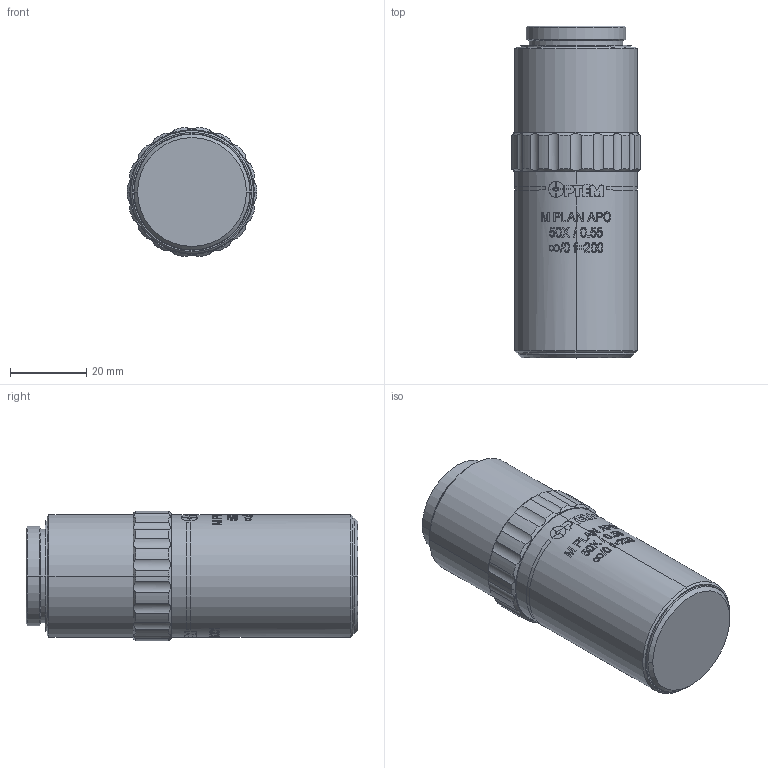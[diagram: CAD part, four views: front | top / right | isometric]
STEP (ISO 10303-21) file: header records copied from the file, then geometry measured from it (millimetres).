
FILE_DESCRIPTION (( 'STEP AP203' ), '1' );
FILE_NAME ('28-21-50-001 OUTLINE.STEP', '2018-07-05T23:32:47', ( '' ), ( '' ), 'SwSTEP 2.0', 'SolidWorks 2017', '' );
FILE_SCHEMA (( 'CONFIG_CONTROL_DESIGN' ));
Length unit declared in the file: millimetre
Products named in the file (1): 28-21-50-001 OUTLINE
Bounding box: 34 x 86.9 x 33.88 mm (x, y, z)
Volume: 69547.4 mm3; surface area: 19744.5 mm2
Topology: 2 solids, 2 shells, 175 faces, 804 edges, 708 vertices
Faces by surface type: cylinder 143, cone 22, plane 10
Entity records: 14987 total; most frequent: CARTESIAN_POINT 8470, ORIENTED_EDGE 1608, DIRECTION 1036, EDGE_CURVE 804, VERTEX_POINT 708, AXIS2_PLACEMENT_3D 416, B_SPLINE_CURVE_WITH_KNOTS 360, EDGE_LOOP 252
